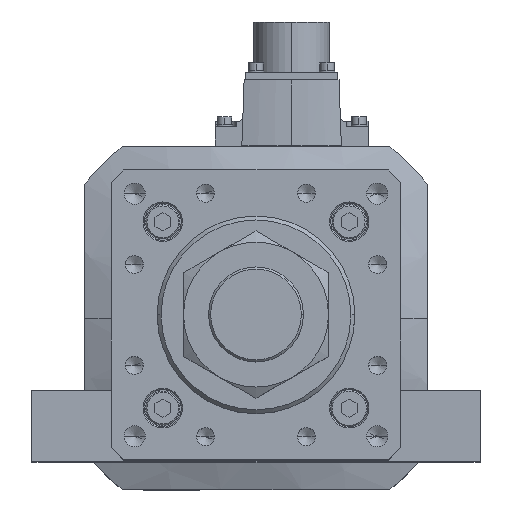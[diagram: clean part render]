
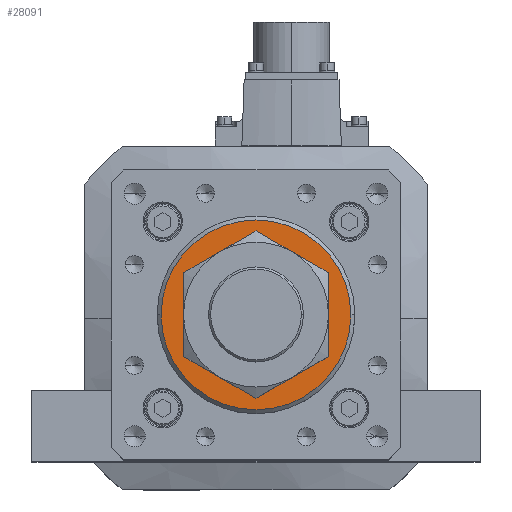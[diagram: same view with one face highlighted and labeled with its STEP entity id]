
A CAD part, top view. The second image highlights one B-rep face of the part: STEP entity #28091.
In plain terms, the highlighted planar face has unit normal (0, 0, 1).
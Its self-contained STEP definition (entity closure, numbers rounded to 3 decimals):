
#140 = DIRECTION ( 'NONE',  ( 1., 0., 0. ) ) ;
#374 = CIRCLE ( 'NONE', #32175, 23. ) ;
#1135 = DIRECTION ( 'NONE',  ( 0., 0., -1. ) ) ;
#1378 = ORIENTED_EDGE ( 'NONE', *, *, #14722, .T. ) ;
#3703 = VERTEX_POINT ( 'NONE', #36230 ) ;
#4720 = AXIS2_PLACEMENT_3D ( 'NONE', #17852, #9181, #140 ) ;
#5026 = EDGE_CURVE ( 'NONE', #18595, #35865, #17575, .T. ) ;
#6296 = EDGE_CURVE ( 'NONE', #35219, #3703, #374, .T. ) ;
#6825 = AXIS2_PLACEMENT_3D ( 'NONE', #19172, #37441, #33932 ) ;
#7669 = EDGE_LOOP ( 'NONE', ( #11855, #16682 ) ) ;
#7915 = DIRECTION ( 'NONE',  ( 0., 0., -1. ) ) ;
#9181 = DIRECTION ( 'NONE',  ( 0., 0., 1. ) ) ;
#11855 = ORIENTED_EDGE ( 'NONE', *, *, #27439, .T. ) ;
#12469 = CARTESIAN_POINT ( 'NONE',  ( -36., 0., 446. ) ) ;
#14722 = EDGE_CURVE ( 'NONE', #3703, #35219, #36939, .T. ) ;
#15279 = EDGE_LOOP ( 'NONE', ( #1378, #19411 ) ) ;
#16472 = CARTESIAN_POINT ( 'NONE',  ( 0., 0., 446. ) ) ;
#16682 = ORIENTED_EDGE ( 'NONE', *, *, #5026, .T. ) ;
#17575 = CIRCLE ( 'NONE', #6825, 36. ) ;
#17852 = CARTESIAN_POINT ( 'NONE',  ( 0., 0., 446. ) ) ;
#18595 = VERTEX_POINT ( 'NONE', #24619 ) ;
#19093 = DIRECTION ( 'NONE',  ( 0., 0., 1. ) ) ;
#19172 = CARTESIAN_POINT ( 'NONE',  ( 0., 0., 446. ) ) ;
#19227 = CARTESIAN_POINT ( 'NONE',  ( 0., 0., 446. ) ) ;
#19411 = ORIENTED_EDGE ( 'NONE', *, *, #6296, .T. ) ;
#20724 = FACE_OUTER_BOUND ( 'NONE', #7669, .T. ) ;
#21987 = DIRECTION ( 'NONE',  ( 1., 0., 0. ) ) ;
#24619 = CARTESIAN_POINT ( 'NONE',  ( 36., 0., 446. ) ) ;
#25853 = FACE_BOUND ( 'NONE', #15279, .T. ) ;
#26293 = CARTESIAN_POINT ( 'NONE',  ( -23., 0., 446. ) ) ;
#27439 = EDGE_CURVE ( 'NONE', #35865, #18595, #36086, .T. ) ;
#28038 = DIRECTION ( 'NONE',  ( 1., 0., 0. ) ) ;
#28091 = ADVANCED_FACE ( 'NONE', ( #25853, #20724 ), #35618, .T. ) ;
#30753 = AXIS2_PLACEMENT_3D ( 'NONE', #19227, #19093, #28038 ) ;
#31770 = DIRECTION ( 'NONE',  ( 1., 0., 0. ) ) ;
#32175 = AXIS2_PLACEMENT_3D ( 'NONE', #16472, #7915, #31770 ) ;
#32690 = AXIS2_PLACEMENT_3D ( 'NONE', #33754, #1135, #21987 ) ;
#33754 = CARTESIAN_POINT ( 'NONE',  ( 0., 0., 446. ) ) ;
#33932 = DIRECTION ( 'NONE',  ( 1., 0., 0. ) ) ;
#35219 = VERTEX_POINT ( 'NONE', #26293 ) ;
#35618 = PLANE ( 'NONE',  #4720 ) ;
#35865 = VERTEX_POINT ( 'NONE', #12469 ) ;
#36086 = CIRCLE ( 'NONE', #30753, 36. ) ;
#36230 = CARTESIAN_POINT ( 'NONE',  ( 23., 0., 446. ) ) ;
#36939 = CIRCLE ( 'NONE', #32690, 23. ) ;
#37441 = DIRECTION ( 'NONE',  ( 0., 0., 1. ) ) ;
